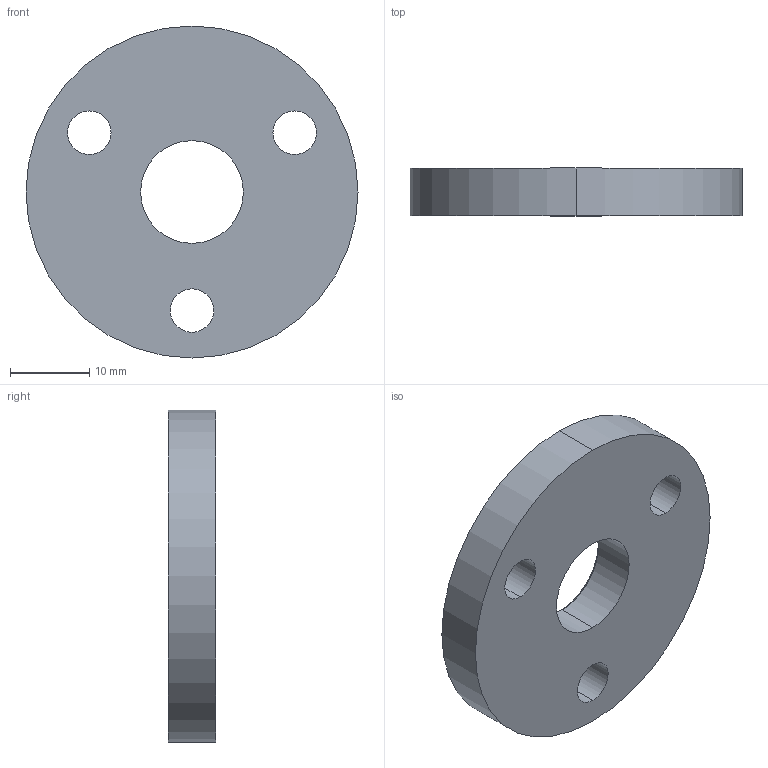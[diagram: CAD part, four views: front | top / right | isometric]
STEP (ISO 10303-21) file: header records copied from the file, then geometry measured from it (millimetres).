
FILE_DESCRIPTION (( 'STEP AP214' ), '1' );
FILE_NAME ('Actuator Carrier_LTA HL PPV6.STEP', '2022-06-01T23:17:29', ( '' ), ( '' ), 'SwSTEP 2.0', 'SolidWorks 2019', '' );
FILE_SCHEMA (( 'AUTOMOTIVE_DESIGN' ));
Length unit declared in the file: millimetre
Products named in the file (1): Actuator Carrier_LTA HL PPV6
Bounding box: 42 x 6 x 42 mm (x, y, z)
Volume: 6754.7 mm3; surface area: 3783.8 mm2
Topology: 1 solids, 1 shells, 23 faces, 52 edges, 34 vertices
Faces by surface type: cylinder 16, plane 5, cone 2
Entity records: 714 total; most frequent: DIRECTION 134, CARTESIAN_POINT 110, ORIENTED_EDGE 104, AXIS2_PLACEMENT_3D 58, EDGE_CURVE 52, VERTEX_POINT 34, CIRCLE 34, EDGE_LOOP 34
